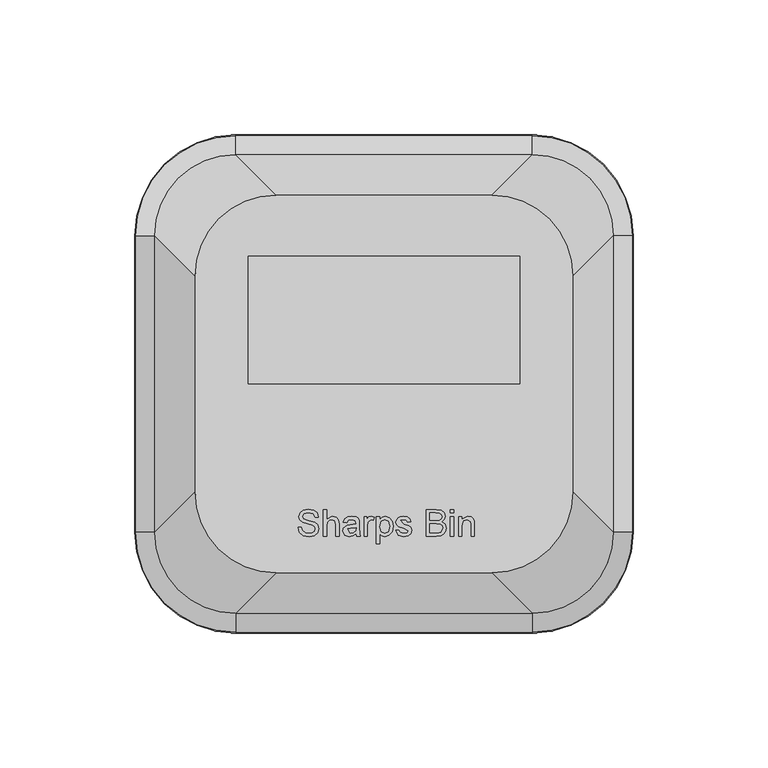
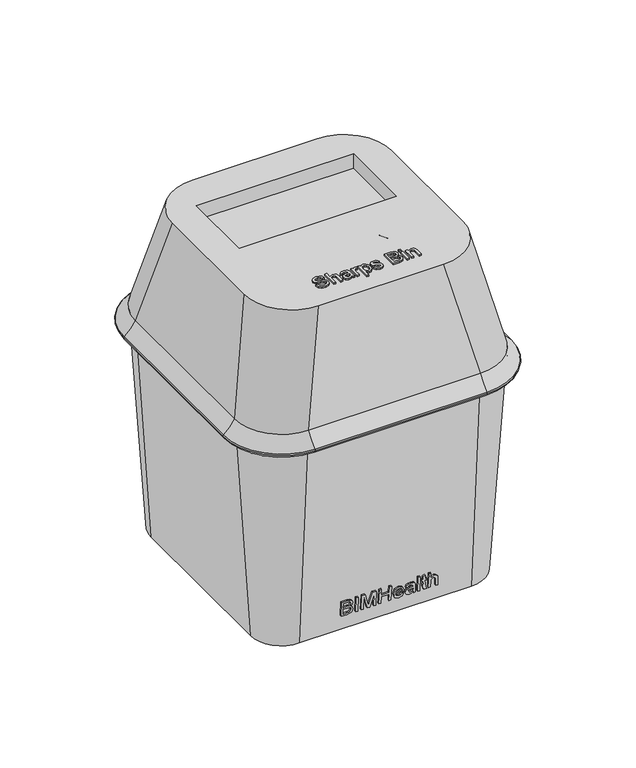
"""IFC4 building model written with IfcOpenShell, lengths in millimetres: flow terminal geometry, BIMHealth-Sharps-Bin-LOD2A-v1 : BIMHealth-Sharps-Bin-LOD2A-v1."""

import ifcopenshell
import ifcopenshell.guid

model = None  # the IFC model being written
_history = None  # IfcOwnerHistory: only IFC2X3 demands one
_inside = {}  # id of a spatial element -> (the spatial element, [elements in it])
_under = {}  # id of a project, library or spatial element -> (it, [spatial elements below it])
_declared = {}  # id of a project -> (the project, [libraries it declares])
_typed = {}  # id of a type object -> (the type object, [elements of that type])
_made_of = {}  # id of a material, layer set ... -> (it, [elements and type objects made of it])


def new_model(schema):
    """Start an empty IFC model of exactly this schema.

    Asked for "IFC4X3", IfcOpenShell would pick the latest addendum, in which some entities
    have other attributes; the version numbers below select the first issue.
    IFC2X3 requires an IfcOwnerHistory on every rooted entity: one is made here for all.
    """
    global model, _history
    if schema == "IFC4X3":
        model = ifcopenshell.file(schema_version=(4, 3, 0, 0))
    else:
        model = ifcopenshell.file(schema=schema)
    _inside.clear()
    _under.clear()
    _declared.clear()
    _typed.clear()
    _made_of.clear()
    _history = None
    if model.schema == "IFC2X3":
        org = make("IfcOrganization", Name="unknown")
        user = make(
            "IfcPersonAndOrganization",
            ThePerson=make("IfcPerson", FamilyName="unknown"),
            TheOrganization=org,
        )
        app = make(
            "IfcApplication",
            ApplicationDeveloper=org,
            Version="unknown",
            ApplicationFullName="unknown",
            ApplicationIdentifier="unknown",
        )
        _history = make(
            "IfcOwnerHistory",
            OwningUser=user,
            OwningApplication=app,
            ChangeAction="ADDED",
            CreationDate=0,
        )
    return model


def make(cls, **values):
    """One entity of the class cls with the attributes given. An attribute that is None is left unset."""
    return model.create_entity(
        cls, **{name: value for name, value in values.items() if value is not None}
    )


def rooted(cls, **values):
    """An entity with a GlobalId (a new one), such as an element, a storey or a relation."""
    return make(cls, GlobalId=ifcopenshell.guid.new(), OwnerHistory=_history, **values)


def si_unit(unit_type, name, prefix=None):
    """IfcSIUnit, for example si_unit("LENGTHUNIT", "METRE", prefix="MILLI")."""
    return make("IfcSIUnit", UnitType=unit_type, Prefix=prefix, Name=name)


def assignment(units):
    """IfcUnitAssignment: the units of a project."""
    return None if units is None else make("IfcUnitAssignment", Units=units)


def point(xyz):
    """IfcCartesianPoint."""
    return None if xyz is None else make("IfcCartesianPoint", Coordinates=xyz)


def direction(xyz):
    """IfcDirection."""
    return None if xyz is None else make("IfcDirection", DirectionRatios=xyz)


def frame(location, z_axis=None, x_axis=None):
    """IfcAxis2Placement3D, a coordinate frame: its origin and axes. An axis left out is left unset."""
    return make(
        "IfcAxis2Placement3D",
        Location=point(location),
        Axis=direction(z_axis),
        RefDirection=direction(x_axis),
    )


def origin():
    """The frame at (0, 0, 0) with its axes left unset."""
    return frame((0.0, 0.0, 0.0))


def place(relative_to, where):
    """IfcLocalPlacement: puts the frame where relative to a parent placement (None: the world)."""
    return make(
        "IfcLocalPlacement", PlacementRelTo=relative_to, RelativePlacement=where
    )


def context(
    kind, dimensions, precision=None, world=None, true_north=None, identifier=None
):
    """IfcGeometricRepresentationContext, for example the 3D "Model" context."""
    return make(
        "IfcGeometricRepresentationContext",
        ContextIdentifier=identifier,
        ContextType=kind,
        CoordinateSpaceDimension=dimensions,
        Precision=precision,
        WorldCoordinateSystem=world,
        TrueNorth=true_north,
    )


def project(units=None, contexts=None):
    """IfcProject with its units and contexts."""
    return rooted(
        "IfcProject",
        Name="project",
        RepresentationContexts=contexts,
        UnitsInContext=assignment(units),
    )


def spatial(cls, under=None, at=None, **own):
    """A site, building, storey or space (cls), placed at a placement, below another one or the project."""
    s = rooted(cls, ObjectPlacement=at, **own)
    if under is not None:
        _under.setdefault(under.id(), (under, []))[1].append(s)
    return s


def polyline(points):
    """IfcPolyline through the points."""
    return make("IfcPolyline", Points=[point(p) for p in points])


def circle_curve(where, radius):
    """IfcCircle in the frame where."""
    return make("IfcCircle", Position=where, Radius=radius)


def ellipse_curve(where, semi_axis1, semi_axis2):
    """IfcEllipse in the frame where."""
    return make(
        "IfcEllipse", Position=where, SemiAxis1=semi_axis1, SemiAxis2=semi_axis2
    )


def trimmed(basis, trim1, trim2, sense, master):
    """IfcTrimmedCurve: the piece of a basis curve between two trims."""
    return make(
        "IfcTrimmedCurve",
        BasisCurve=basis,
        Trim1=trim1,
        Trim2=trim2,
        SenseAgreement=sense,
        MasterRepresentation=master,
    )


def outline(outer, holes=None, kind="AREA"):
    """IfcArbitraryClosedProfileDef: a profile drawn as a closed curve; with holes, ...WithVoids."""
    if holes is None:
        return make("IfcArbitraryClosedProfileDef", ProfileType=kind, OuterCurve=outer)
    return make(
        "IfcArbitraryProfileDefWithVoids",
        ProfileType=kind,
        OuterCurve=outer,
        InnerCurves=holes,
    )


def extrude(swept, where, along, depth):
    """IfcExtrudedAreaSolid: the profile swept, set in the frame where, extruded along a direction by depth."""
    return make(
        "IfcExtrudedAreaSolid",
        SweptArea=swept,
        Position=where,
        ExtrudedDirection=direction(along),
        Depth=depth,
    )


def shape(context_of_items, identifier, shape_type, items):
    """IfcShapeRepresentation: the items that make up one representation, for example the "Body"."""
    return make(
        "IfcShapeRepresentation",
        ContextOfItems=context_of_items,
        RepresentationIdentifier=identifier,
        RepresentationType=shape_type,
        Items=items,
    )


def source(mapping_origin, context_of_items, identifier, shape_type, items):
    """IfcRepresentationMap: a shape defined once, which mapped items show again and again."""
    return make(
        "IfcRepresentationMap",
        MappingOrigin=mapping_origin,
        MappedRepresentation=shape(context_of_items, identifier, shape_type, items),
    )


def transform(
    local_origin,
    x_axis=None,
    y_axis=None,
    z_axis=None,
    scale=None,
    scale2=None,
    scale3=None,
    uniform=True,
):
    """IfcCartesianTransformationOperator3D, or its non-uniform kind. x_axis, y_axis, z_axis: its Axis1, 2, 3."""
    if uniform:
        return make(
            "IfcCartesianTransformationOperator3D",
            Axis1=direction(x_axis),
            Axis2=direction(y_axis),
            LocalOrigin=point(local_origin),
            Scale=scale,
            Axis3=direction(z_axis),
        )
    return make(
        "IfcCartesianTransformationOperator3DnonUniform",
        Axis1=direction(x_axis),
        Axis2=direction(y_axis),
        LocalOrigin=point(local_origin),
        Scale=scale,
        Axis3=direction(z_axis),
        Scale2=scale2,
        Scale3=scale3,
    )


def mapped(mapping_source, mapping_target):
    """IfcMappedItem: shows the shape of a source again, moved by a transform."""
    return make(
        "IfcMappedItem", MappingSource=mapping_source, MappingTarget=mapping_target
    )


def made_of(thing, what):
    """Note that an element or type object is made of a material, layer set ...; save() writes the relation."""
    if what is not None:
        _made_of.setdefault(what.id(), (what, []))[1].append(thing)
    return thing


def element(
    cls,
    number,
    at=None,
    inside=None,
    cuts=None,
    type_object=None,
    material=None,
    context=None,
    identifier="Body",
    shape_type=None,
    held_by="IfcProductDefinitionShape",
    body=None,
    shapes=None,
    **own,
):
    """One element of the class cls, such as IfcWall. Its Tag is "e" and its number.

    at: its placement. inside: the storey or other place that contains it. cuts: it is an
    opening in that element (IfcRelVoidsElement). A single representation is given by context,
    identifier, shape_type and body (its items); several are given by shapes. held_by: the class
    of the entity that holds the representations. save() writes the other relations.
    """
    e = rooted(cls, Tag="e%d" % number, ObjectPlacement=at, **own)
    if body is not None:
        shapes = [shape(context, identifier, shape_type, body)]
    if shapes is not None:
        e.Representation = make(held_by, Representations=shapes)
    if inside is not None:
        _inside.setdefault(inside.id(), (inside, []))[1].append(e)
    if cuts is not None:
        rooted(
            "IfcRelVoidsElement", RelatingBuildingElement=cuts, RelatedOpeningElement=e
        )
    if type_object is not None:
        _typed.setdefault(type_object.id(), (type_object, []))[1].append(e)
    return made_of(e, material)


def aggregate(whole, parts):
    """IfcRelAggregates: a whole, such as a stair, and the parts it consists of."""
    return rooted("IfcRelAggregates", RelatingObject=whole, RelatedObjects=parts)


def save(model, path):
    """Write the relations noted so far, then the file.

    IfcRelAggregates (storeys below a building ...), IfcRelContainedInSpatialStructure (elements
    in a storey), IfcRelDefinesByType, IfcRelAssociatesMaterial and IfcRelDeclares: one each for
    every whole, place, type object, material and project.
    """
    for whole, parts in _under.values():
        aggregate(whole, parts)
    for where, things in _inside.values():
        rooted(
            "IfcRelContainedInSpatialStructure",
            RelatedElements=things,
            RelatingStructure=where,
        )
    for kind, things in _typed.values():
        rooted("IfcRelDefinesByType", RelatedObjects=things, RelatingType=kind)
    for what, things in _made_of.values():
        rooted("IfcRelAssociatesMaterial", RelatedObjects=things, RelatingMaterial=what)
    for by, libraries in _declared.values():
        rooted("IfcRelDeclares", RelatingContext=by, RelatedDefinitions=libraries)
    model.write(path)


def plane_surface(at):
    """IfcPlane: the flat surface through the origin of the frame at, square to its z axis."""
    return make("IfcPlane", Position=at)


def cylinder_surface(at, radius):
    """IfcCylindricalSurface: all points at the distance radius from the z axis of the frame at."""
    return make("IfcCylindricalSurface", Position=at, Radius=radius)


def revolved_surface(curve, axis_point, axis_direction):
    """IfcSurfaceOfRevolution: the curve turned about the line through axis_point along axis_direction."""
    return make(
        "IfcSurfaceOfRevolution",
        SweptCurve=make("IfcArbitraryOpenProfileDef", ProfileType="CURVE", Curve=curve),
        AxisPosition=make("IfcAxis1Placement", Location=point(axis_point), Axis=direction(axis_direction)),
    )


def extruded_surface(curve, direction_of_extrusion, depth):
    """IfcSurfaceOfLinearExtrusion: the curve pushed along a direction by depth."""
    return make(
        "IfcSurfaceOfLinearExtrusion",
        SweptCurve=make("IfcArbitraryOpenProfileDef", ProfileType="CURVE", Curve=curve),
        ExtrudedDirection=direction(direction_of_extrusion),
        Depth=depth,
    )


def advanced_brep(points, edges, surfaces, faces):
    """IfcAdvancedBrep: a solid bounded by faces that lie on surfaces and meet in shared edges.

    An edge is (start, end): straight between two places in points (the first is 0);
    or (start, end, curve); or (start, end, curve, False) where it runs against its curve.
    A face is (place in surfaces, loops), or (place, loops, False) where it looks against
    its surface's normal. A loop lists edges by number (the first is 1), with a minus sign
    where the edge is run from its end to its start. The first loop is the outer one.
    """
    corners = [point(p) for p in points]
    vertices = [make("IfcVertexPoint", VertexGeometry=c) for c in corners]
    made = []
    for start, end, *more in edges:
        made.append(
            make(
                "IfcEdgeCurve",
                EdgeStart=vertices[start],
                EdgeEnd=vertices[end],
                EdgeGeometry=more[0] if more else make("IfcPolyline", Points=[corners[start], corners[end]]),
                SameSense=more[1] if len(more) > 1 else True,
            )
        )
    hull = []
    for where, loops, *sense in faces:
        bounds = []
        for j, loop in enumerate(loops):
            ring = [make("IfcOrientedEdge", EdgeElement=made[abs(k) - 1], Orientation=k > 0) for k in loop]
            bounds.append(
                make(
                    "IfcFaceOuterBound" if j == 0 else "IfcFaceBound",
                    Bound=make("IfcEdgeLoop", EdgeList=ring),
                    Orientation=True,
                )
            )
        hull.append(make("IfcAdvancedFace", Bounds=bounds, FaceSurface=surfaces[where], SameSense=sense[0] if sense else True))
    return make("IfcAdvancedBrep", Outer=make("IfcClosedShell", CfsFaces=hull))


def flow_terminal_8b284a73(model_context):
    return source(origin(), model_context, "Body", "SolidModel", [
        extrude(outline(polyline([(-3.7283653, 0.0), (0.0, 0.0), (1.578125, -0.1694711), (2.6490385, -0.6694712), (3.3665866, -1.6117788), (3.65625, -2.9350961), (3.2319712, -4.4663462), (2.0192308, -5.3846154), (3.0180289, -6.2560096), (3.3485577, -7.4062501), (2.9555289, -8.6658654), (1.8689904, -9.5564904), (0.0288462, -9.8461538), (-3.7283653, -9.8461538), (-3.7283653, 0.0)]), holes=[polyline([(-2.4975961, -5.8461538), (-2.4975961, -8.6153846), (-0.420673, -8.6153846), (1.1610577, -8.4867789), (1.8701923, -8.0120193), (2.1177885, -7.2091346), (1.8521635, -6.4074519), (1.0625, -5.9519231), (-0.25, -5.8461538), (-2.4975961, -5.8461538)]), polyline([(-2.4975961, -1.2307692), (-2.4975961, -4.6153846), (-0.09375, -4.6153846), (1.4266827, -4.4507211), (2.1899039, -3.8798077), (2.4254808, -2.923077), (1.7127404, -1.546875), (0.9399039, -1.2788462), (0.0264423, -1.2307692), (-2.4975961, -1.2307692)])]), frame((-25.5584636, -76.6778243, 9.930208), z_axis=(0.0, 0.9975640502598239, 0.06975647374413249), x_axis=(1.0, 0.0, 0.0)), (0.0, 0.0, 1.0), 1.0),
        extrude(outline(polyline([(0.0, -1.2307692), (0.0, 0.0), (1.0, 0.0), (1.0, -1.2307692), (0.0, -1.2307692)])), frame((-20.0560597, -76.6778243, 9.930208), z_axis=(0.0, -0.06975647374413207, 0.9975640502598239), x_axis=(0.0, 0.9975640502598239, 0.06975647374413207)), (0.0, 0.0, 1.0), 9.8461538),
        extrude(outline(polyline([(-1.2307692, 0.0), (0.0, 0.0), (0.0, -8.6153846), (2.4759615, 0.0), (4.1418269, 0.0), (6.6153846, -8.6153846), (6.6153846, 0.0), (7.8461539, 0.0), (7.8461539, -9.8461538), (5.7283654, -9.8461538), (3.7475962, -3.0264424), (3.3076923, -1.4567308), (2.8990385, -2.90625), (0.8798077, -9.8461538), (-1.2307692, -9.8461538), (-1.2307692, 0.0)])), frame((-15.1329828, -76.6778243, 9.930208), z_axis=(0.0, 0.9975640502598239, 0.06975647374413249), x_axis=(1.0, 0.0, 0.0)), (0.0, 0.0, 1.0), 1.0),
        extrude(outline(polyline([(-1.2307692, 0.0), (0.0, 0.0), (0.0, -4.6153846), (5.2307693, -4.6153846), (5.2307693, 0.0), (6.4615385, 0.0), (6.4615385, -9.8461538), (5.2307693, -9.8461538), (5.2307693, -5.8461538), (0.0, -5.8461538), (0.0, -9.8461538), (-1.2307692, -9.8461538), (-1.2307692, 0.0)])), frame((-3.9022136, -76.6778243, 9.930208), z_axis=(0.0, 0.9975640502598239, 0.06975647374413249), x_axis=(1.0, 0.0, 0.0)), (0.0, 0.0, 1.0), 1.0),
        extrude(outline(polyline([(-1.1407029, 0.0), (0.0, 0.0), (1.0240192, 0.688289), (1.7274647, 2.2136747), (1.0710493, 3.8340678), (-3.0188979, 0.0848102), (-4.3956987, 2.7167965), (-3.4435062, 5.1421623), (-0.9996126, 6.2226287), (1.6937524, 4.944179), (3.0017074, 2.3637642), (1.9251695, -0.1503402), (0.0573388, -1.2681132), (-1.8693352, -0.9741472), (-1.1407029, 0.0)]), holes=[polyline([(0.1866159, 4.6899712), (-1.1709325, 5.0587173), (-2.5557295, 4.2897138), (-3.2678678, 2.7242355), (-2.8090457, 1.5944543), (0.1866159, 4.6899712)])]), frame((8.8285557, -76.7708889, 11.2610927), z_axis=(0.0, 0.9975640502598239, 0.06975647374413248), x_axis=(-0.6954214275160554, 0.05012715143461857, -0.7168516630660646)), (0.0, 0.0, 1.0), 1.0),
        extrude(outline(polyline([(-0.9730086, 0.0), (0.0, 0.0), (0.3892034, -1.1676102), (-0.6700836, -1.2622505), (-2.7183426, -1.8791227), (-4.1710138, -2.3633464), (-5.2116769, -2.6468872), (-6.1234923, -2.5530071), (-6.911021, -1.927393), (-7.5902265, -0.5815246), (-7.8688262, 1.0372423), (-7.5396757, 2.277068), (-6.5678075, 3.1622777), (-6.0326528, 2.0433179), (-6.6419233, 1.2143603), (-6.4727871, -0.0418089), (-5.7050226, -1.2200614), (-4.4781197, -1.1607687), (-4.7517784, 0.9980939), (-4.9129329, 2.0668829), (-4.8023292, 3.0121455), (-4.3276074, 3.8228592), (-3.4785054, 4.3542132), (-1.8650597, 4.2344875), (-0.7457198, 2.7236637), (-0.5590999, 1.3960392), (-0.9730086, 0.0)]), holes=[polyline([(-3.1440337, -0.7198742), (-2.1383383, -0.1755976), (-1.7160678, 0.8114739), (-1.8304723, 2.085887), (-3.723658, 2.2922713), (-3.5780868, 1.2246225), (-3.1440337, -0.7198742)])]), frame((17.0208634, -76.6778243, 9.930208), z_axis=(0.0, 0.9975640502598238, 0.06975647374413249), x_axis=(0.3162277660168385, 0.06617680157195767, -0.946372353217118)), (0.0, 0.0, 1.0), 1.0),
        extrude(outline(polyline([(0.0, -1.2307692), (0.0, 0.0), (1.0, 0.0), (1.0, -1.2307692), (0.0, -1.2307692)])), frame((19.636248, -76.6778243, 9.930208), z_axis=(0.0, -0.06975647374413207, 0.9975640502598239), x_axis=(0.0, 0.9975640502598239, 0.06975647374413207)), (0.0, 0.0, 1.0), 9.8461538),
        extrude(outline(polyline([(-4.5192578, 1e-07), (0.0, 0.0), (-0.1675931, 1.2193054), (1.0517123, 1.3868985), (1.2193054, 0.1675931), (3.6769676, 0.505398), (3.1277425, -0.8124337), (1.3868985, -1.0517122), (1.5125933, -1.9661911), (0.2932879, -2.1337842), (0.1675931, -1.2193053), (-3.8118193, -1.7662742), (-5.8168529, -1.372166), (-6.1597013, -0.3783446), (-6.1683774, 0.5497922), (-4.5192578, 1e-07)])), frame((24.0977864, -77.0963632, 15.9155923), z_axis=(0.0, 0.9975640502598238, 0.06975647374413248), x_axis=(-0.13616939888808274, -0.06910673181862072, 0.9882723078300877)), (0.0, 0.0, 1.0), 1.0),
        extrude(outline(polyline([(-1.2307692, 0.0), (0.0, 0.0), (0.0, -3.8413461), (0.2007212, -5.1370192), (0.8737981, -5.8798077), (1.8822116, -6.1538462), (2.9927885, -5.7475962), (3.3846154, -4.4495192), (3.3846154, 0.0), (4.6153846, 0.0), (4.6153846, -4.5769231), (4.3629808, -6.1947115), (3.5240385, -7.0685096), (2.141827, -7.3846154), (0.0, -6.2259615), (0.0, -9.8461538), (-1.2307692, -9.8461538), (-1.2307692, 0.0)])), frame((27.7900941, -76.6778243, 9.930208), z_axis=(0.0, 0.9975640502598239, 0.06975647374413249), x_axis=(1.0, 0.0, 0.0)), (0.0, 0.0, 1.0), 1.0),
        extrude(outline(polyline([(-31.8477094, -53.0746263), (-30.6169402, -53.0746263), (-30.2203056, -54.3065975), (-29.2515556, -55.0854436), (-27.775594, -55.3823186), (-26.4895363, -55.157559), (-25.6590075, -54.5397706), (-25.3861709, -53.7140494), (-25.5904979, -52.9460206), (-26.4270363, -52.3871263), (-28.2191036, -51.9171744), (-30.1481902, -51.3102033), (-31.1950652, -50.3943379), (-31.5400171, -49.1707802), (-31.1133344, -47.7777513), (-29.8669402, -46.7945783), (-28.0424209, -46.4592417), (-26.0953056, -46.8102033), (-24.7972286, -47.8414533), (-24.3092479, -49.3823186), (-25.5400171, -49.3823186), (-26.2371325, -48.1178956), (-27.994344, -47.690011), (-29.7563632, -48.1130879), (-30.3092479, -49.1347225), (-29.9174209, -49.9880879), (-27.9078056, -50.6755879), (-25.7299209, -51.2933763), (-24.5388152, -52.2909725), (-24.1554017, -53.6827994), (-24.5965075, -55.1551552), (-25.8657382, -56.2296744), (-27.7275171, -56.6130879), (-29.9258344, -56.1996263), (-31.3164594, -54.954434), (-31.8477094, -53.0746263)])), frame((0.0, 0.0, 220.0), z_axis=(0.0, 0.0, 1.0), x_axis=(1.0, 0.0, 0.0)), (0.0, 0.0, 1.0), 1.0),
        extrude(outline(polyline([(-22.463094, -56.4592417), (-22.463094, -46.6130879), (-21.2323248, -46.6130879), (-21.2323248, -50.2332802), (-19.0904979, -49.0746263), (-17.7082863, -49.3907321), (-16.869344, -50.2645302), (-16.6169402, -51.8823186), (-16.6169402, -56.4592417), (-17.8477094, -56.4592417), (-17.8477094, -52.0097225), (-18.2395363, -50.7116456), (-19.3501132, -50.3053956), (-20.3585267, -50.579434), (-21.0316036, -51.3222225), (-21.2323248, -52.6178956), (-21.2323248, -56.4592417), (-22.463094, -56.4592417)])), frame((0.0, 0.0, 220.0), z_axis=(0.0, 0.0, 1.0), x_axis=(1.0, 0.0, 0.0)), (0.0, 0.0, 1.0), 1.0),
        extrude(outline(polyline([(-10.3092479, -55.5361648), (-11.5027575, -56.3702994), (-12.8212671, -56.6130879), (-14.6085267, -56.0289533), (-15.2323248, -54.5361648), (-14.9967479, -53.5626071), (-14.3777575, -52.8558763), (-13.5159786, -52.4520302), (-12.4510748, -52.266934), (-10.3164594, -51.8438571), (-10.6481902, -50.6611648), (-12.0087671, -50.3053956), (-13.2539594, -50.5421744), (-13.8477094, -51.3823186), (-15.0784786, -51.2284725), (-14.5460267, -50.0265494), (-13.4739113, -49.3222225), (-11.8501132, -49.0746263), (-10.3585267, -49.2933763), (-9.5159786, -49.8426552), (-9.1385748, -50.6779917), (-9.0784786, -51.7549148), (-9.0784786, -53.2861648), (-9.0159786, -55.424386), (-8.7707863, -56.4592417), (-10.0015556, -56.4592417), (-10.3092479, -55.5361648)]), holes=[polyline([(-10.3128536, -53.2489052), (-12.2948248, -53.4520302), (-13.353719, -53.6515494), (-12.5592479, -55.3823186), (-11.3140556, -55.0878475), (-10.5111709, -54.3751071), (-10.3128536, -53.2489052)])]), frame((0.0, 0.0, 220.0), z_axis=(0.0, 0.0, 1.0), x_axis=(1.0, 0.0, 0.0)), (0.0, 0.0, 1.0), 1.0),
        extrude(outline(polyline([(-7.3861709, -56.4592417), (-7.3861709, -49.2284725), (-6.3092479, -49.2284725), (-6.3092479, -50.298184), (-5.5448248, -49.3126071), (-4.775594, -49.0746263), (-3.5400171, -49.454434), (-3.9510748, -50.5577994), (-4.8164594, -50.3053956), (-5.9558825, -51.221261), (-6.1554017, -52.658761), (-6.1554017, -56.4592417), (-7.3861709, -56.4592417)])), frame((0.0, 0.0, 220.0), z_axis=(0.0, 0.0, 1.0), x_axis=(1.0, 0.0, 0.0)), (0.0, 0.0, 1.0), 1.0),
        extrude(outline(polyline([(-2.7707863, -59.2284725), (-2.7707863, -49.2284725), (-1.5400171, -49.2284725), (-1.5400171, -50.4352033), (-0.6890556, -49.4147706), (0.4599829, -49.0746263), (2.0200791, -49.5505879), (3.0393098, -50.891934), (3.3830598, -52.7885686), (2.9948387, -54.782559), (1.8674348, -56.1407321), (0.3109444, -56.6130879), (-0.759969, -56.2969821), (-1.5400171, -55.4977033), (-1.5400171, -59.2284725), (-2.7707863, -59.2284725)]), holes=[polyline([(-1.5400171, -52.9015494), (-1.0075652, -54.7765494), (0.2845021, -55.3823186), (1.6030118, -54.7549148), (2.1522906, -52.8102033), (1.6162329, -50.9303956), (0.3349829, -50.3053956), (-0.9715075, -50.970059), (-1.5400171, -52.9015494)])]), frame((0.0, 0.0, 220.0), z_axis=(0.0, 0.0, 1.0), x_axis=(1.0, 0.0, 0.0)), (0.0, 0.0, 1.0), 1.0),
        extrude(outline(polyline([(4.3061368, -54.3053956), (5.536906, -54.1515494), (6.1066175, -55.065011), (7.411906, -55.3823186), (8.6667137, -55.0914533), (9.0753675, -54.408761), (7.3974829, -53.5049148), (5.5441175, -52.9027513), (4.7352233, -52.1996263), (4.4599829, -51.2068379), (4.6811368, -50.2897706), (5.2845021, -49.5890494), (6.0669541, -49.2248667), (7.1258483, -49.0746263), (8.6234444, -49.3162129), (9.5753675, -49.970059), (9.9984444, -51.0746263), (8.7676752, -51.2284725), (8.3049348, -50.549386), (7.2220021, -50.3053956), (6.0441175, -50.5385686), (7.3566175, -51.9736648), (9.1631079, -52.5529917), (10.0020502, -53.2092417), (10.3061368, -54.2789533), (9.9491656, -55.4568379), (8.9191175, -56.3114052), (7.3950791, -56.6130879), (5.2484444, -56.0313571), (4.3061368, -54.3053956)])), frame((0.0, 0.0, 220.0), z_axis=(0.0, 0.0, 1.0), x_axis=(1.0, 0.0, 0.0)), (0.0, 0.0, 1.0), 1.0),
        extrude(outline(polyline([(15.6907521, -56.4592417), (15.6907521, -46.6130879), (19.4479637, -46.6130879), (21.2881079, -46.9027513), (22.3746464, -47.7933763), (22.7676752, -49.0529917), (22.4371464, -50.2032321), (21.4383483, -51.0746263), (22.6510887, -51.9928956), (23.0753675, -53.5241456), (22.7857041, -54.8474629), (22.068156, -55.7897706), (20.9972425, -56.2897706), (19.4191175, -56.4592417), (15.6907521, -56.4592417)]), holes=[polyline([(16.9215214, -50.6130879), (19.1691175, -50.6130879), (20.4816175, -50.5073186), (21.271281, -50.0517898), (21.536906, -49.2501071), (21.2893098, -48.4472225), (20.5801752, -47.9724629), (18.9984444, -47.8438571), (16.9215214, -47.8438571), (16.9215214, -50.6130879)]), polyline([(16.9215214, -55.2284725), (19.4455598, -55.2284725), (20.3590214, -55.1803956), (21.1318579, -54.9123667), (21.8445983, -53.5361648), (21.6090214, -52.579434), (20.8458002, -52.0085206), (19.3253675, -51.8438571), (16.9215214, -51.8438571), (16.9215214, -55.2284725)])]), frame((0.0, 0.0, 220.0), z_axis=(0.0, 0.0, 1.0), x_axis=(1.0, 0.0, 0.0)), (0.0, 0.0, 1.0), 1.0),
        extrude(outline(polyline([(24.6138291, -47.8438571), (24.6138291, -46.6130879), (25.8445983, -46.6130879), (25.8445983, -47.8438571), (24.6138291, -47.8438571)])), frame((0.0, 0.0, 220.0), z_axis=(0.0, 0.0, 1.0), x_axis=(1.0, 0.0, 0.0)), (0.0, 0.0, 1.0), 1.0),
        extrude(outline(polyline([(24.6138291, -56.4592417), (24.6138291, -49.2284725), (25.8445983, -49.2284725), (25.8445983, -56.4592417), (24.6138291, -56.4592417)])), frame((0.0, 0.0, 220.0), z_axis=(0.0, 0.0, 1.0), x_axis=(1.0, 0.0, 0.0)), (0.0, 0.0, 1.0), 1.0),
        extrude(outline(polyline([(27.6907521, -56.4592417), (27.6907521, -49.2284725), (28.9215214, -49.2284725), (28.9215214, -50.2380879), (31.1474829, -49.0746263), (32.3097425, -49.3090013), (33.1030118, -49.924386), (33.4720021, -50.829434), (33.536906, -52.0193379), (33.536906, -56.4592417), (32.3061368, -56.4592417), (32.3061368, -52.1852033), (32.1643098, -51.096261), (30.818156, -50.3053956), (29.4828194, -50.7885686), (28.9215214, -52.6227033), (28.9215214, -56.4592417), (27.6907521, -56.4592417)])), frame((0.0, 0.0, 220.0), z_axis=(0.0, 0.0, 1.0), x_axis=(1.0, 0.0, 0.0)), (0.0, 0.0, 1.0), 1.0),
        advanced_brep(
        [(-70.0, -40.0, 220.0), (-40.0, -70.0, 220.0), (40.0, -70.0, 220.0), (70.0, -40.0, 220.0), (70.0, 40.0, 220.0), (40.0, 70.0, 220.0), (-40.0, 70.0, 220.0), (-70.0, 40.0, 220.0), (50.3750191, 47.3531954, 220.0), (50.3750191, 0.0, 220.0), (-50.3750191, 0.0, 220.0), (-50.3750191, 47.3531954, 220.0), (-85.0, -55.0, 150.0), (-85.0, 55.0, 150.0), (-55.0, 85.0, 150.0), (55.0, 85.0, 150.0), (85.0, 55.0, 150.0), (85.0, -55.0, 150.0), (55.0, -85.0, 150.0), (-55.0, -85.0, 150.0), (50.3750191, 47.3531954, 210.0807193), (50.3750191, 0.0, 210.0807193), (-50.3750191, 0.0, 210.0807193), (-50.3750191, 47.3531954, 210.0807193)],
        [
            (0, 1, circle_curve(frame((-40.0, -40.0, 220.0), z_axis=(0.0, 0.0, 1.0), x_axis=(1.0, 0.0, 0.0)), 30.0)),
            (1, 2),
            (2, 3, circle_curve(frame((40.0, -40.0, 220.0), z_axis=(0.0, 0.0, 1.0), x_axis=(1.0, 0.0, 0.0)), 30.0)),
            (3, 4),
            (4, 5, circle_curve(frame((40.0, 40.0, 220.0), z_axis=(0.0, 0.0, 1.0), x_axis=(1.0, 0.0, 0.0)), 30.0)),
            (5, 6),
            (6, 7, circle_curve(frame((-40.0, 40.0, 220.0), z_axis=(0.0, 0.0, 1.0), x_axis=(1.0, 0.0, 0.0)), 30.0)),
            (7, 0),
            (8, 9),
            (9, 10),
            (10, 11),
            (11, 8),
            (12, 13),
            (13, 14, circle_curve(frame((-55.0, 55.0, 150.0), z_axis=(0.0, 0.0, -1.0), x_axis=(1.0, 0.0, 0.0)), 30.0)),
            (14, 15),
            (15, 16, circle_curve(frame((55.0, 55.0, 150.0), z_axis=(0.0, 0.0, -1.0), x_axis=(1.0, 0.0, 0.0)), 30.0)),
            (16, 17),
            (17, 18, circle_curve(frame((55.0, -55.0, 150.0), z_axis=(0.0, 0.0, -1.0), x_axis=(1.0, 0.0, 0.0)), 30.0)),
            (18, 19),
            (19, 12, circle_curve(frame((-55.0, -55.0, 150.0), z_axis=(0.0, 0.0, -1.0), x_axis=(1.0, 0.0, 0.0)), 30.0)),
            (0, 12),
            (19, 1),
            (18, 2),
            (17, 3),
            (16, 4),
            (15, 5),
            (14, 6),
            (13, 7),
            (20, 21),
            (21, 9),
            (8, 20),
            (22, 23),
            (23, 11),
            (10, 22),
            (21, 22),
            (20, 23),
        ],
        [
            plane_surface(frame((0.0, 0.0, 220.0), z_axis=(0.0, 0.0, 1.0), x_axis=(0.0, -1.0, 0.0))),
            plane_surface(frame((0.0, 0.0, 150.0), z_axis=(0.0, 0.0, -1.0), x_axis=(0.0, -1.0, 0.0))),
            extruded_surface(trimmed(circle_curve(frame((-55.0, -55.0, 150.0), z_axis=(0.0, 0.0, 1.0), x_axis=(1.0, 0.0, 0.0)), 30.0), [point((-85.0, -55.0, 150.0))], [point((-55.0, -85.0, 150.0))], True, "CARTESIAN"), (15.0, 15.0, 70.0), 73.14369419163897),
            plane_surface(frame((0.0, -85.0, 150.0), z_axis=(0.0, -0.9778024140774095, 0.2095290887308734), x_axis=(1.0, 0.0, 0.0))),
            extruded_surface(trimmed(circle_curve(frame((55.0, -55.0, 150.0), z_axis=(0.0, 0.0, 1.0), x_axis=(1.0, 0.0, 0.0)), 30.0), [point((55.0, -85.0, 150.0))], [point((85.0, -55.0, 150.0))], True, "CARTESIAN"), (-15.0, 15.0, 70.0), 73.14369419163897),
            plane_surface(frame((85.0, 0.0, 150.0), z_axis=(0.9778024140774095, 0.0, 0.2095290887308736), x_axis=(0.0, 1.0, 0.0))),
            extruded_surface(trimmed(circle_curve(frame((55.0, 55.0, 150.0), z_axis=(0.0, 0.0, 1.0), x_axis=(1.0, 0.0, 0.0)), 30.0), [point((85.0, 55.0, 150.0))], [point((55.0, 85.0, 150.0))], True, "CARTESIAN"), (-15.0, -15.0, 70.0), 73.14369419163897),
            plane_surface(frame((0.0, 85.0, 150.0), z_axis=(0.0, 0.9778024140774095, 0.2095290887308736), x_axis=(-1.0, 0.0, 0.0))),
            extruded_surface(trimmed(circle_curve(frame((-55.0, 55.0, 150.0), z_axis=(0.0, 0.0, 1.0), x_axis=(1.0, 0.0, 0.0)), 30.0), [point((-55.0, 85.0, 150.0))], [point((-85.0, 55.0, 150.0))], True, "CARTESIAN"), (15.0, -15.0, 70.0), 73.14369419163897),
            plane_surface(frame((-85.0, 0.0, 150.0), z_axis=(-0.9778024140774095, 0.0, 0.2095290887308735), x_axis=(0.0, -1.0, 0.0))),
            plane_surface(frame((50.3750191, 0.0, 220.0), z_axis=(-1.0, 0.0, 0.0), x_axis=(0.0, 0.0, -1.0))),
            plane_surface(frame((-50.3750191, 0.0, 220.0), z_axis=(1.0, 0.0, 0.0), x_axis=(0.0, 0.0, 1.0))),
            plane_surface(frame((50.3750191, 0.0, 225.0807193), z_axis=(0.0, 1.0, 0.0), x_axis=(-1.0, 0.0, 0.0))),
            plane_surface(frame((50.3750191, 0.0, 210.0807193), z_axis=(0.0, 0.0, 1.0), x_axis=(-1.0, 0.0, 0.0))),
            plane_surface(frame((50.3750191, 47.3531954, 210.0807193), z_axis=(0.0, -1.0, 0.0), x_axis=(-1.0, 0.0, 0.0))),
        ],
        [
            (0, [[1, 2, 3, 4, 5, 6, 7, 8], [9, 10, 11, 12]]),
            (1, [[13, 14, 15, 16, 17, 18, 19, 20]]),
            (2, [[-1, 21, -20, 22]]),
            (3, [[-2, -22, -19, 23]]),
            (4, [[-3, -23, -18, 24]]),
            (5, [[-4, -24, -17, 25]]),
            (6, [[-5, -25, -16, 26]]),
            (7, [[-6, -26, -15, 27]]),
            (8, [[-7, -27, -14, 28]]),
            (9, [[-8, -28, -13, -21]]),
            (10, [[29, 30, -9, 31]]),
            (11, [[32, 33, -11, 34]]),
            (12, [[35, -34, -10, -30]]),
            (13, [[-29, 36, -32, -35]]),
            (14, [[-36, -31, -12, -33]]),
        ],
    ),
        advanced_brep(
        [(-55.0, -85.0, 141.0696771), (-85.0, -55.0, 141.0696771), (-85.0, -55.0, 150.0), (-55.0, -85.0, 150.0), (-92.0563197, -55.0, 141.5699326), (-55.0, -92.0563197, 141.5699326), (-92.339659, -55.0, 140.7249249), (-55.0, -92.339659, 140.7249249), (-89.8635439, -55.0, 138.5696771), (-55.0, -89.8635439, 138.5696771), (-55.0, -87.5, 138.5696771), (-87.5, -55.0, 138.5696771), (55.0, -85.0, 150.0), (55.0, -85.0, 141.0696771), (55.0, -92.0563197, 141.5699326), (55.0, -92.339659, 140.7249249), (55.0, -89.8635439, 138.5696771), (55.0, -87.5, 138.5696771), (85.0, -55.0, 141.0696771), (85.0, -55.0, 150.0), (92.0563197, -55.0, 141.5699326), (92.339659, -55.0, 140.7249249), (89.8635439, -55.0, 138.5696771), (87.5, -55.0, 138.5696771), (85.0, 55.0, 150.0), (85.0, 55.0, 141.0696771), (92.0563197, 55.0, 141.5699326), (92.339659, 55.0, 140.7249249), (89.8635439, 55.0, 138.5696771), (87.5, 55.0, 138.5696771), (55.0, 85.0, 141.0696771), (55.0, 85.0, 150.0), (55.0, 92.0563197, 141.5699326), (55.0, 92.339659, 140.7249249), (55.0, 89.8635439, 138.5696771), (55.0, 87.5, 138.5696771), (-55.0, 85.0, 150.0), (-55.0, 85.0, 141.0696771), (-55.0, 92.0563197, 141.5699326), (-55.0, 92.339659, 140.7249249), (-55.0, 89.8635439, 138.5696771), (-55.0, 87.5, 138.5696771), (-85.0, 55.0, 141.0696771), (-85.0, 55.0, 150.0), (-92.0563197, 55.0, 141.5699326), (-92.339659, 55.0, 140.7249249), (-89.8635439, 55.0, 138.5696771), (-87.5, 55.0, 138.5696771)],
        [
            (0, 1, circle_curve(frame((-55.0, -55.0, 141.0696771), z_axis=(0.0, 0.0, -1.0), x_axis=(-1.0, 0.0, 0.0)), 30.0)),
            (1, 2),
            (2, 3, circle_curve(frame((-55.0, -55.0, 150.0), z_axis=(0.0, 0.0, 1.0), x_axis=(-1.0, 0.0, 0.0)), 30.0)),
            (3, 0),
            (2, 4, circle_curve(frame((-119.9725157, -55.0, 172.1052099), z_axis=(0.0, 1.0, 0.0), x_axis=(-1.0, 0.0, 0.0)), 41.3729037)),
            (4, 5, circle_curve(frame((-55.0, -55.0, 141.5699326), z_axis=(0.0, 0.0, 1.0), x_axis=(-1.0, 0.0, 0.0)), 37.0563197)),
            (5, 3, circle_curve(frame((-55.0, -119.9725157, 172.1052099), z_axis=(1.0, 0.0, 0.0), x_axis=(0.0, -1.0, 0.0)), 41.3729037)),
            (4, 6, circle_curve(frame((-91.3492129, -55.0, 140.8628258), z_axis=(0.0, -1.0, 0.0), x_axis=(-1.0, 0.0, 0.0)), 1.0)),
            (6, 7, circle_curve(frame((-55.0, -55.0, 140.7249249), z_axis=(0.0, 0.0, 1.0), x_axis=(-1.0, 0.0, 0.0)), 37.339659)),
            (7, 5, circle_curve(frame((-55.0, -91.3492129, 140.8628258), z_axis=(-1.0, 0.0, 0.0), x_axis=(0.0, -1.0, 0.0)), 1.0)),
            (6, 8, circle_curve(frame((-89.8635439, -55.0, 141.0696771), z_axis=(0.0, -1.0, 0.0), x_axis=(-1.0, 0.0, 0.0)), 2.5)),
            (8, 9, circle_curve(frame((-55.0, -55.0, 138.5696771), z_axis=(0.0, 0.0, 1.0), x_axis=(-1.0, 0.0, 0.0)), 34.8635439)),
            (9, 7, circle_curve(frame((-55.0, -89.8635439, 141.0696771), z_axis=(-1.0, 0.0, 0.0), x_axis=(0.0, -1.0, 0.0)), 2.5)),
            (10, 11, circle_curve(frame((-55.0, -55.0, 138.5696771), z_axis=(0.0, 0.0, -1.0), x_axis=(-1.0, 0.0, 0.0)), 32.5)),
            (11, 1, circle_curve(frame((-87.5, -55.0, 141.0696771), z_axis=(0.0, -1.0, 0.0), x_axis=(-1.0, 0.0, 0.0)), 2.5)),
            (0, 10, circle_curve(frame((-55.0, -87.5, 141.0696771), z_axis=(-1.0, 0.0, 0.0), x_axis=(0.0, -1.0, 0.0)), 2.5)),
            (3, 12),
            (12, 13),
            (13, 0),
            (5, 14),
            (14, 12, circle_curve(frame((55.0, -119.9725157, 172.1052099), z_axis=(1.0, 0.0, 0.0), x_axis=(0.0, -1.0, 0.0)), 41.3729037)),
            (7, 15),
            (15, 14, circle_curve(frame((55.0, -91.3492129, 140.8628258), z_axis=(-1.0, 0.0, 0.0), x_axis=(0.0, -1.0, 0.0)), 1.0)),
            (9, 16),
            (16, 15, circle_curve(frame((55.0, -89.8635439, 141.0696771), z_axis=(-1.0, 0.0, 0.0), x_axis=(0.0, -1.0, 0.0)), 2.5)),
            (13, 17, circle_curve(frame((55.0, -87.5, 141.0696771), z_axis=(-1.0, 0.0, 0.0), x_axis=(0.0, -1.0, 0.0)), 2.5)),
            (17, 10),
            (18, 13, circle_curve(frame((55.0, -55.0, 141.0696771), z_axis=(0.0, 0.0, -1.0), x_axis=(0.0, -1.0, 0.0)), 30.0)),
            (12, 19, circle_curve(frame((55.0, -55.0, 150.0), z_axis=(0.0, 0.0, 1.0), x_axis=(0.0, -1.0, 0.0)), 30.0)),
            (19, 18),
            (14, 20, circle_curve(frame((55.0, -55.0, 141.5699326), z_axis=(0.0, 0.0, 1.0), x_axis=(0.0, -1.0, 0.0)), 37.0563197)),
            (20, 19, circle_curve(frame((119.9725157, -55.0, 172.1052099), z_axis=(0.0, 1.0, 0.0), x_axis=(1.0, 0.0, 0.0)), 41.3729037)),
            (15, 21, circle_curve(frame((55.0, -55.0, 140.7249249), z_axis=(0.0, 0.0, 1.0), x_axis=(0.0, -1.0, 0.0)), 37.339659)),
            (21, 20, circle_curve(frame((91.3492129, -55.0, 140.8628258), z_axis=(0.0, -1.0, 0.0), x_axis=(1.0, 0.0, 0.0)), 1.0)),
            (16, 22, circle_curve(frame((55.0, -55.0, 138.5696771), z_axis=(0.0, 0.0, 1.0), x_axis=(0.0, -1.0, 0.0)), 34.8635439)),
            (22, 21, circle_curve(frame((89.8635439, -55.0, 141.0696771), z_axis=(0.0, -1.0, 0.0), x_axis=(1.0, 0.0, 0.0)), 2.5)),
            (23, 17, circle_curve(frame((55.0, -55.0, 138.5696771), z_axis=(0.0, 0.0, -1.0), x_axis=(0.0, -1.0, 0.0)), 32.5)),
            (18, 23, circle_curve(frame((87.5, -55.0, 141.0696771), z_axis=(0.0, -1.0, 0.0), x_axis=(1.0, 0.0, 0.0)), 2.5)),
            (19, 24),
            (24, 25),
            (25, 18),
            (20, 26),
            (26, 24, circle_curve(frame((119.9725157, 55.0, 172.1052099), z_axis=(0.0, 1.0, 0.0), x_axis=(1.0, 0.0, 0.0)), 41.3729037)),
            (21, 27),
            (27, 26, circle_curve(frame((91.3492129, 55.0, 140.8628258), z_axis=(0.0, -1.0, 0.0), x_axis=(1.0, 0.0, 0.0)), 1.0)),
            (22, 28),
            (28, 27, circle_curve(frame((89.8635439, 55.0, 141.0696771), z_axis=(0.0, -1.0, 0.0), x_axis=(1.0, 0.0, 0.0)), 2.5)),
            (25, 29, circle_curve(frame((87.5, 55.0, 141.0696771), z_axis=(0.0, -1.0, 0.0), x_axis=(1.0, 0.0, 0.0)), 2.5)),
            (29, 23),
            (30, 25, circle_curve(frame((55.0, 55.0, 141.0696771), z_axis=(0.0, 0.0, -1.0), x_axis=(1.0, 0.0, 0.0)), 30.0)),
            (24, 31, circle_curve(frame((55.0, 55.0, 150.0), z_axis=(0.0, 0.0, 1.0), x_axis=(1.0, 0.0, 0.0)), 30.0)),
            (31, 30),
            (26, 32, circle_curve(frame((55.0, 55.0, 141.5699326), z_axis=(0.0, 0.0, 1.0), x_axis=(1.0, 0.0, 0.0)), 37.0563197)),
            (32, 31, circle_curve(frame((55.0, 119.9725157, 172.1052099), z_axis=(-1.0, 0.0, 0.0), x_axis=(0.0, 1.0, 0.0)), 41.3729037)),
            (27, 33, circle_curve(frame((55.0, 55.0, 140.7249249), z_axis=(0.0, 0.0, 1.0), x_axis=(1.0, 0.0, 0.0)), 37.339659)),
            (33, 32, circle_curve(frame((55.0, 91.3492129, 140.8628258), z_axis=(1.0, 0.0, 0.0), x_axis=(0.0, 1.0, 0.0)), 1.0)),
            (28, 34, circle_curve(frame((55.0, 55.0, 138.5696771), z_axis=(0.0, 0.0, 1.0), x_axis=(1.0, 0.0, 0.0)), 34.8635439)),
            (34, 33, circle_curve(frame((55.0, 89.8635439, 141.0696771), z_axis=(1.0, 0.0, 0.0), x_axis=(0.0, 1.0, 0.0)), 2.5)),
            (35, 29, circle_curve(frame((55.0, 55.0, 138.5696771), z_axis=(0.0, 0.0, -1.0), x_axis=(1.0, 0.0, 0.0)), 32.5)),
            (30, 35, circle_curve(frame((55.0, 87.5, 141.0696771), z_axis=(1.0, 0.0, 0.0), x_axis=(0.0, 1.0, 0.0)), 2.5)),
            (31, 36),
            (36, 37),
            (37, 30),
            (32, 38),
            (38, 36, circle_curve(frame((-55.0, 119.9725157, 172.1052099), z_axis=(-1.0, 0.0, 0.0), x_axis=(0.0, 1.0, 0.0)), 41.3729037)),
            (33, 39),
            (39, 38, circle_curve(frame((-55.0, 91.3492129, 140.8628258), z_axis=(1.0, 0.0, 0.0), x_axis=(0.0, 1.0, 0.0)), 1.0)),
            (34, 40),
            (40, 39, circle_curve(frame((-55.0, 89.8635439, 141.0696771), z_axis=(1.0, 0.0, 0.0), x_axis=(0.0, 1.0, 0.0)), 2.5)),
            (37, 41, circle_curve(frame((-55.0, 87.5, 141.0696771), z_axis=(1.0, 0.0, 0.0), x_axis=(0.0, 1.0, 0.0)), 2.5)),
            (41, 35),
            (42, 37, circle_curve(frame((-55.0, 55.0, 141.0696771), z_axis=(0.0, 0.0, -1.0), x_axis=(0.0, 1.0, 0.0)), 30.0)),
            (36, 43, circle_curve(frame((-55.0, 55.0, 150.0), z_axis=(0.0, 0.0, 1.0), x_axis=(0.0, 1.0, 0.0)), 30.0)),
            (43, 42),
            (38, 44, circle_curve(frame((-55.0, 55.0, 141.5699326), z_axis=(0.0, 0.0, 1.0), x_axis=(0.0, 1.0, 0.0)), 37.0563197)),
            (44, 43, circle_curve(frame((-119.9725157, 55.0, 172.1052099), z_axis=(0.0, -1.0, 0.0), x_axis=(-1.0, 0.0, 0.0)), 41.3729037)),
            (39, 45, circle_curve(frame((-55.0, 55.0, 140.7249249), z_axis=(0.0, 0.0, 1.0), x_axis=(0.0, 1.0, 0.0)), 37.339659)),
            (45, 44, circle_curve(frame((-91.3492129, 55.0, 140.8628258), z_axis=(0.0, 1.0, 0.0), x_axis=(-1.0, 0.0, 0.0)), 1.0)),
            (40, 46, circle_curve(frame((-55.0, 55.0, 138.5696771), z_axis=(0.0, 0.0, 1.0), x_axis=(0.0, 1.0, 0.0)), 34.8635439)),
            (46, 45, circle_curve(frame((-89.8635439, 55.0, 141.0696771), z_axis=(0.0, 1.0, 0.0), x_axis=(-1.0, 0.0, 0.0)), 2.5)),
            (47, 41, circle_curve(frame((-55.0, 55.0, 138.5696771), z_axis=(0.0, 0.0, -1.0), x_axis=(0.0, 1.0, 0.0)), 32.5)),
            (42, 47, circle_curve(frame((-87.5, 55.0, 141.0696771), z_axis=(0.0, 1.0, 0.0), x_axis=(-1.0, 0.0, 0.0)), 2.5)),
            (43, 2),
            (1, 42),
            (44, 4),
            (45, 6),
            (46, 8),
            (47, 11),
        ],
        [
            revolved_surface(polyline([(-85.0, -55.0, 150.0), (-85.0, -55.0, 141.0696771)]), (-55.0, -55.0, 138.5696771), (0.0, 0.0, 1.0)),
            revolved_surface(trimmed(ellipse_curve(frame((-119.9725157, -55.0, 172.1052099), z_axis=(0.0, -1.0, 0.0), x_axis=(-1.0, 0.0, 0.0)), 41.3729037, 41.3729037), [point((-92.0563197, -55.0, 141.5699326))], [point((-85.0, -55.0, 150.0))], True, "CARTESIAN"), (-55.0, -55.0, 138.5696771), (0.0, 0.0, 1.0)),
            revolved_surface(trimmed(ellipse_curve(frame((-91.3492129, -55.0, 140.8628258), z_axis=(0.0, 1.0, 0.0), x_axis=(-1.0, 0.0, 0.0)), 1.0, 1.0), [point((-92.339659, -55.0, 140.7249249))], [point((-92.0563197, -55.0, 141.5699326))], True, "CARTESIAN"), (-55.0, -55.0, 138.5696771), (0.0, 0.0, 1.0)),
            revolved_surface(trimmed(ellipse_curve(frame((-89.8635439, -55.0, 141.0696771), z_axis=(0.0, 1.0, 0.0), x_axis=(-1.0, 0.0, 0.0)), 2.5, 2.5), [point((-89.8635439, -55.0, 138.5696771))], [point((-92.339659, -55.0, 140.7249249))], True, "CARTESIAN"), (-55.0, -55.0, 138.5696771), (0.0, 0.0, 1.0)),
            revolved_surface(trimmed(ellipse_curve(frame((-87.5, -55.0, 141.0696771), z_axis=(0.0, 1.0, 0.0), x_axis=(-1.0, 0.0, 0.0)), 2.5, 2.5), [point((-85.0, -55.0, 141.0696771))], [point((-87.5, -55.0, 138.5696771))], True, "CARTESIAN"), (-55.0, -55.0, 138.5696771), (0.0, 0.0, 1.0)),
            plane_surface(frame((-55.0, -85.0, 150.0), z_axis=(0.0, 1.0, 0.0), x_axis=(1.0, 0.0, 0.0))),
            revolved_surface(polyline([(55.0, -161.3454194, 172.1052099), (-55.0, -161.3454194, 172.1052099)]), (-55.0, -119.9725157, 172.1052099), (1.0, 0.0, 0.0)),
            cylinder_surface(frame((-55.0, -91.3492129, 140.8628258), z_axis=(-1.0, 0.0, 0.0), x_axis=(0.0, -1.0, 0.0)), 1.0),
            cylinder_surface(frame((-55.0, -89.8635439, 141.0696771), z_axis=(-1.0, 0.0, 0.0), x_axis=(0.0, -1.0, 0.0)), 2.5),
            cylinder_surface(frame((-55.0, -87.5, 141.0696771), z_axis=(-1.0, 0.0, 0.0), x_axis=(0.0, -1.0, 0.0)), 2.5),
            revolved_surface(polyline([(55.0, -85.0, 150.0), (55.0, -85.0, 141.0696771)]), (55.0, -55.0, 138.5696771), (0.0, 0.0, 1.0)),
            revolved_surface(trimmed(ellipse_curve(frame((55.0, -119.9725157, 172.1052099), z_axis=(1.0, 0.0, 0.0), x_axis=(0.0, -1.0, 0.0)), 41.3729037, 41.3729037), [point((55.0, -92.0563197, 141.5699326))], [point((55.0, -85.0, 150.0))], True, "CARTESIAN"), (55.0, -55.0, 138.5696771), (0.0, 0.0, 1.0)),
            revolved_surface(trimmed(ellipse_curve(frame((55.0, -91.3492129, 140.8628258), z_axis=(-1.0, 0.0, 0.0), x_axis=(0.0, -1.0, 0.0)), 1.0, 1.0), [point((55.0, -92.339659, 140.7249249))], [point((55.0, -92.0563197, 141.5699326))], True, "CARTESIAN"), (55.0, -55.0, 138.5696771), (0.0, 0.0, 1.0)),
            revolved_surface(trimmed(ellipse_curve(frame((55.0, -89.8635439, 141.0696771), z_axis=(-1.0, 0.0, 0.0), x_axis=(0.0, -1.0, 0.0)), 2.5, 2.5), [point((55.0, -89.8635439, 138.5696771))], [point((55.0, -92.339659, 140.7249249))], True, "CARTESIAN"), (55.0, -55.0, 138.5696771), (0.0, 0.0, 1.0)),
            revolved_surface(trimmed(ellipse_curve(frame((55.0, -87.5, 141.0696771), z_axis=(-1.0, 0.0, 0.0), x_axis=(0.0, -1.0, 0.0)), 2.5, 2.5), [point((55.0, -85.0, 141.0696771))], [point((55.0, -87.5, 138.5696771))], True, "CARTESIAN"), (55.0, -55.0, 138.5696771), (0.0, 0.0, 1.0)),
            plane_surface(frame((85.0, -55.0, 150.0), z_axis=(-1.0, 0.0, 0.0), x_axis=(0.0, 1.0, 0.0))),
            revolved_surface(polyline([(161.3454194, 55.0, 172.1052099), (161.3454194, -55.0, 172.1052099)]), (119.9725157, -55.0, 172.1052099), (0.0, 1.0, 0.0)),
            cylinder_surface(frame((91.3492129, -55.0, 140.8628258), z_axis=(0.0, -1.0, 0.0), x_axis=(1.0, 0.0, 0.0)), 1.0),
            cylinder_surface(frame((89.8635439, -55.0, 141.0696771), z_axis=(0.0, -1.0, 0.0), x_axis=(1.0, 0.0, 0.0)), 2.5),
            cylinder_surface(frame((87.5, -55.0, 141.0696771), z_axis=(0.0, -1.0, 0.0), x_axis=(1.0, 0.0, 0.0)), 2.5),
            revolved_surface(polyline([(85.0, 55.0, 150.0), (85.0, 55.0, 141.0696771)]), (55.0, 55.0, 138.5696771), (0.0, 0.0, 1.0)),
            revolved_surface(trimmed(ellipse_curve(frame((119.9725157, 55.0, 172.1052099), z_axis=(0.0, 1.0, 0.0), x_axis=(1.0, 0.0, 0.0)), 41.3729037, 41.3729037), [point((92.0563197, 55.0, 141.5699326))], [point((85.0, 55.0, 150.0))], True, "CARTESIAN"), (55.0, 55.0, 138.5696771), (0.0, 0.0, 1.0)),
            revolved_surface(trimmed(ellipse_curve(frame((91.3492129, 55.0, 140.8628258), z_axis=(0.0, -1.0, 0.0), x_axis=(1.0, 0.0, 0.0)), 1.0, 1.0), [point((92.339659, 55.0, 140.7249249))], [point((92.0563197, 55.0, 141.5699326))], True, "CARTESIAN"), (55.0, 55.0, 138.5696771), (0.0, 0.0, 1.0)),
            revolved_surface(trimmed(ellipse_curve(frame((89.8635439, 55.0, 141.0696771), z_axis=(0.0, -1.0, 0.0), x_axis=(1.0, 0.0, 0.0)), 2.5, 2.5), [point((89.8635439, 55.0, 138.5696771))], [point((92.339659, 55.0, 140.7249249))], True, "CARTESIAN"), (55.0, 55.0, 138.5696771), (0.0, 0.0, 1.0)),
            revolved_surface(trimmed(ellipse_curve(frame((87.5, 55.0, 141.0696771), z_axis=(0.0, -1.0, 0.0), x_axis=(1.0, 0.0, 0.0)), 2.5, 2.5), [point((85.0, 55.0, 141.0696771))], [point((87.5, 55.0, 138.5696771))], True, "CARTESIAN"), (55.0, 55.0, 138.5696771), (0.0, 0.0, 1.0)),
            plane_surface(frame((55.0, 85.0, 150.0), z_axis=(0.0, -1.0, 0.0), x_axis=(-1.0, 0.0, 0.0))),
            revolved_surface(polyline([(-55.0, 161.3454194, 172.1052099), (55.0, 161.3454194, 172.1052099)]), (55.0, 119.9725157, 172.1052099), (-1.0, 0.0, 0.0)),
            cylinder_surface(frame((55.0, 91.3492129, 140.8628258), z_axis=(1.0, 0.0, 0.0), x_axis=(0.0, 1.0, 0.0)), 1.0),
            cylinder_surface(frame((55.0, 89.8635439, 141.0696771), z_axis=(1.0, 0.0, 0.0), x_axis=(0.0, 1.0, 0.0)), 2.5),
            cylinder_surface(frame((55.0, 87.5, 141.0696771), z_axis=(1.0, 0.0, 0.0), x_axis=(0.0, 1.0, 0.0)), 2.5),
            revolved_surface(polyline([(-55.0, 85.0, 150.0), (-55.0, 85.0, 141.0696771)]), (-55.0, 55.0, 138.5696771), (0.0, 0.0, 1.0)),
            revolved_surface(trimmed(ellipse_curve(frame((-55.0, 119.9725157, 172.1052099), z_axis=(-1.0, 0.0, 0.0), x_axis=(0.0, 1.0, 0.0)), 41.3729037, 41.3729037), [point((-55.0, 92.0563197, 141.5699326))], [point((-55.0, 85.0, 150.0))], True, "CARTESIAN"), (-55.0, 55.0, 138.5696771), (0.0, 0.0, 1.0)),
            revolved_surface(trimmed(ellipse_curve(frame((-55.0, 91.3492129, 140.8628258), z_axis=(1.0, 0.0, 0.0), x_axis=(0.0, 1.0, 0.0)), 1.0, 1.0), [point((-55.0, 92.339659, 140.7249249))], [point((-55.0, 92.0563197, 141.5699326))], True, "CARTESIAN"), (-55.0, 55.0, 138.5696771), (0.0, 0.0, 1.0)),
            revolved_surface(trimmed(ellipse_curve(frame((-55.0, 89.8635439, 141.0696771), z_axis=(1.0, 0.0, 0.0), x_axis=(0.0, 1.0, 0.0)), 2.5, 2.5), [point((-55.0, 89.8635439, 138.5696771))], [point((-55.0, 92.339659, 140.7249249))], True, "CARTESIAN"), (-55.0, 55.0, 138.5696771), (0.0, 0.0, 1.0)),
            revolved_surface(trimmed(ellipse_curve(frame((-55.0, 87.5, 141.0696771), z_axis=(1.0, 0.0, 0.0), x_axis=(0.0, 1.0, 0.0)), 2.5, 2.5), [point((-55.0, 85.0, 141.0696771))], [point((-55.0, 87.5, 138.5696771))], True, "CARTESIAN"), (-55.0, 55.0, 138.5696771), (0.0, 0.0, 1.0)),
            plane_surface(frame((-85.0, 55.0, 150.0), z_axis=(1.0, 0.0, 0.0), x_axis=(0.0, -1.0, 0.0))),
            revolved_surface(polyline([(-161.3454194, -55.0, 172.1052099), (-161.3454194, 55.0, 172.1052099)]), (-119.9725157, 55.0, 172.1052099), (0.0, -1.0, 0.0)),
            cylinder_surface(frame((-91.3492129, 55.0, 140.8628258), z_axis=(0.0, 1.0, 0.0), x_axis=(-1.0, 0.0, 0.0)), 1.0),
            cylinder_surface(frame((-89.8635439, 55.0, 141.0696771), z_axis=(0.0, 1.0, 0.0), x_axis=(-1.0, 0.0, 0.0)), 2.5),
            plane_surface(frame((-87.5, 55.0, 138.5696771), z_axis=(0.0, 0.0, -1.0), x_axis=(0.0, -1.0, 0.0))),
            cylinder_surface(frame((-87.5, 55.0, 141.0696771), z_axis=(0.0, 1.0, 0.0), x_axis=(-1.0, 0.0, 0.0)), 2.5),
        ],
        [
            (0, [[1, 2, 3, 4]]),
            (1, [[-3, 5, 6, 7]]),
            (2, [[-6, 8, 9, 10]]),
            (3, [[-9, 11, 12, 13]]),
            (4, [[14, 15, -1, 16]]),
            (5, [[-4, 17, 18, 19]]),
            (6, [[-7, 20, 21, -17]]),
            (7, [[-10, 22, 23, -20]]),
            (8, [[-13, 24, 25, -22]]),
            (9, [[-16, -19, 26, 27]]),
            (10, [[28, -18, 29, 30]]),
            (11, [[-29, -21, 31, 32]]),
            (12, [[-31, -23, 33, 34]]),
            (13, [[-33, -25, 35, 36]]),
            (14, [[37, -26, -28, 38]]),
            (15, [[-30, 39, 40, 41]]),
            (16, [[-32, 42, 43, -39]]),
            (17, [[-34, 44, 45, -42]]),
            (18, [[-36, 46, 47, -44]]),
            (19, [[-38, -41, 48, 49]]),
            (20, [[50, -40, 51, 52]]),
            (21, [[-51, -43, 53, 54]]),
            (22, [[-53, -45, 55, 56]]),
            (23, [[-55, -47, 57, 58]]),
            (24, [[59, -48, -50, 60]]),
            (25, [[-52, 61, 62, 63]]),
            (26, [[-54, 64, 65, -61]]),
            (27, [[-56, 66, 67, -64]]),
            (28, [[-58, 68, 69, -66]]),
            (29, [[-60, -63, 70, 71]]),
            (30, [[72, -62, 73, 74]]),
            (31, [[-73, -65, 75, 76]]),
            (32, [[-75, -67, 77, 78]]),
            (33, [[-77, -69, 79, 80]]),
            (34, [[81, -70, -72, 82]]),
            (35, [[-74, 83, -2, 84]]),
            (36, [[-76, 85, -5, -83]]),
            (37, [[-78, 86, -8, -85]]),
            (38, [[-80, 87, -11, -86]]),
            (39, [[-87, -79, -68, -57, -46, -35, -24, -12], [-71, -81, 88, -14, -27, -37, -49, -59]]),
            (40, [[-82, -84, -15, -88]]),
        ],
    ),
        advanced_brep(
        [(55.0, 85.0, 150.0), (-55.0, 85.0, 150.0), (-85.0, 55.0, 150.0), (-85.0, -55.0, 150.0), (-55.0, -85.0, 150.0), (55.0, -85.0, 150.0), (85.0, -55.0, 150.0), (85.0, 55.0, 150.0), (55.0, 75.0, 0.0), (75.0, 55.0, 0.0), (75.0, -55.0, 0.0), (55.0, -75.0, 0.0), (-55.0, -75.0, 0.0), (-75.0, -55.0, 0.0), (-75.0, 55.0, 0.0), (-55.0, 75.0, 0.0)],
        [
            (0, 1),
            (1, 2, circle_curve(frame((-55.0, 55.0, 150.0), z_axis=(0.0, 0.0, 1.0), x_axis=(0.0, 1.0, 0.0)), 30.0)),
            (2, 3),
            (3, 4, circle_curve(frame((-55.0, -55.0, 150.0), z_axis=(0.0, 0.0, 1.0), x_axis=(-1.0, 0.0, 0.0)), 30.0)),
            (4, 5),
            (5, 6, circle_curve(frame((55.0, -55.0, 150.0), z_axis=(0.0, 0.0, 1.0), x_axis=(0.0, -1.0, 0.0)), 30.0)),
            (6, 7),
            (7, 0, circle_curve(frame((55.0, 55.0, 150.0), z_axis=(0.0, 0.0, 1.0), x_axis=(1.0, 0.0, 0.0)), 30.0)),
            (8, 9, circle_curve(frame((55.0, 55.0, 0.0), z_axis=(0.0, 0.0, -1.0), x_axis=(1.0, 0.0, 0.0)), 20.0)),
            (9, 10),
            (10, 11, circle_curve(frame((55.0, -55.0, 0.0), z_axis=(0.0, 0.0, -1.0), x_axis=(0.0, -1.0, 0.0)), 20.0)),
            (11, 12),
            (12, 13, circle_curve(frame((-55.0, -55.0, 0.0), z_axis=(0.0, 0.0, -1.0), x_axis=(-1.0, 0.0, 0.0)), 20.0)),
            (13, 14),
            (14, 15, circle_curve(frame((-55.0, 55.0, 0.0), z_axis=(0.0, 0.0, -1.0), x_axis=(0.0, 1.0, 0.0)), 20.0)),
            (15, 8),
            (15, 1),
            (0, 8),
            (14, 2),
            (13, 3),
            (12, 4),
            (11, 5),
            (10, 6),
            (9, 7),
        ],
        [
            plane_surface(frame((0.0, 0.0, 150.0), z_axis=(0.0, 0.0, 1.0), x_axis=(-1.0, 0.0, 0.0))),
            plane_surface(frame((0.0, 0.0, 0.0), z_axis=(0.0, 0.0, -1.0), x_axis=(-1.0, 0.0, 0.0))),
            plane_surface(frame((0.0, 75.0, 0.0), z_axis=(0.0, 0.9977851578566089, -0.06651901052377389), x_axis=(-1.0, 0.0, 0.0))),
            revolved_surface(polyline([(-75.0, 55.0, 0.0), (-85.0, 55.0, 150.0)]), (-55.0, 55.0, -300.0), (0.0, 0.0, 1.0)),
            plane_surface(frame((-75.0, 0.0, 0.0), z_axis=(-0.9977851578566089, 0.0, -0.06651901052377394), x_axis=(0.0, -1.0, 0.0))),
            revolved_surface(polyline([(-55.0, -75.0, 0.0), (-55.0, -85.0, 150.0)]), (-55.0, -55.0, -300.0), (0.0, 0.0, 1.0)),
            plane_surface(frame((0.0, -75.0, 0.0), z_axis=(0.0, -0.9977851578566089, -0.06651901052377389), x_axis=(1.0, 0.0, 0.0))),
            revolved_surface(polyline([(75.0, -55.0, 0.0), (85.0, -55.0, 150.0)]), (55.0, -55.0, -300.0), (0.0, 0.0, 1.0)),
            plane_surface(frame((75.0, 0.0, 0.0), z_axis=(0.9977851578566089, 0.0, -0.06651901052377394), x_axis=(0.0, 1.0, 0.0))),
            revolved_surface(polyline([(55.0, 75.0, 0.0), (55.0, 85.0, 150.0)]), (55.0, 55.0, -300.0), (0.0, 0.0, 1.0)),
        ],
        [
            (0, [[1, 2, 3, 4, 5, 6, 7, 8]]),
            (1, [[9, 10, 11, 12, 13, 14, 15, 16]]),
            (2, [[-16, 17, -1, 18]]),
            (3, [[-15, 19, -2, -17]]),
            (4, [[-14, 20, -3, -19]]),
            (5, [[-13, 21, -4, -20]]),
            (6, [[-12, 22, -5, -21]]),
            (7, [[-11, 23, -6, -22]]),
            (8, [[-10, 24, -7, -23]]),
            (9, [[-9, -18, -8, -24]]),
        ],
    ),
    ])


if __name__ == "__main__":
    model = new_model("IFC4")
    model_context = context("Model", 3, world=origin())
    ifc_project = project(units=[si_unit("LENGTHUNIT", "METRE", prefix="MILLI")], contexts=[model_context])
    site = spatial("IfcSite", under=ifc_project)
    building = spatial("IfcBuilding", under=site)
    placement = place(None, origin())
    flow_terminal_shape = flow_terminal_8b284a73(model_context)
    element("IfcFlowTerminal", 1, ObjectType="BIMHealth-Sharps-Bin-LOD2A-v1 : BIMHealth-Sharps-Bin-LOD2A-v1", at=placement, inside=building, context=model_context, shape_type="MappedRepresentation", body=[
        mapped(flow_terminal_shape, transform((0.0, 0.0, 0.0), x_axis=(1.0, 0.0, 0.0), y_axis=(0.0, 1.0, 0.0), z_axis=(0.0, 0.0, 1.0))),
    ])
    save(model, "model.ifc")
